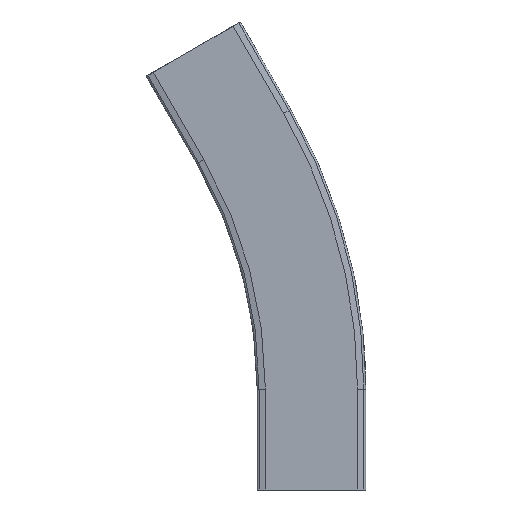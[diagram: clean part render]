
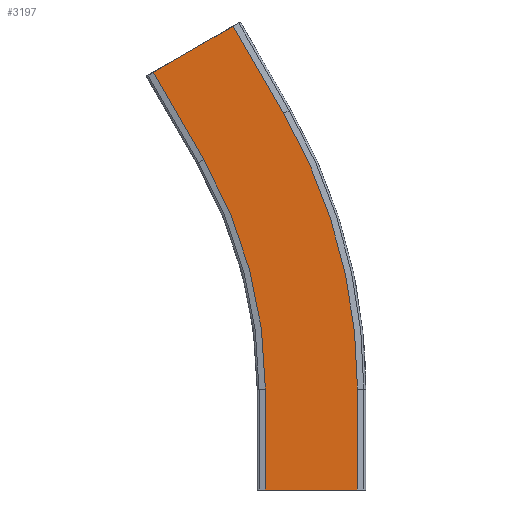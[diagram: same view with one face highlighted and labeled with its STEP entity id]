
A CAD part, front view. The second image highlights one B-rep face of the part: STEP entity #3197.
In plain terms, the highlighted planar face has unit normal (0, -1, 0).
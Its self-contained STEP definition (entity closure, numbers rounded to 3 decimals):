
#325=FACE_OUTER_BOUND('',#493,.T.);
#493=EDGE_LOOP('',(#2915,#2916,#2917,#2918,#2919,#2920,#2921,#2922));
#575=CIRCLE('',#3438,436.5);
#578=CIRCLE('',#3444,363.5);
#888=LINE('',#5509,#1226);
#893=LINE('',#5518,#1231);
#895=LINE('',#5523,#1233);
#910=LINE('',#5563,#1248);
#915=LINE('',#5574,#1253);
#916=LINE('',#5576,#1254);
#1226=VECTOR('',#4179,10.);
#1231=VECTOR('',#4186,10.);
#1233=VECTOR('',#4190,10.);
#1248=VECTOR('',#4231,10.);
#1253=VECTOR('',#4244,10.);
#1254=VECTOR('',#4247,10.);
#1534=VERTEX_POINT('',#5506);
#1535=VERTEX_POINT('',#5508);
#1538=VERTEX_POINT('',#5515);
#1539=VERTEX_POINT('',#5520);
#1549=VERTEX_POINT('',#5546);
#1551=VERTEX_POINT('',#5556);
#1552=VERTEX_POINT('',#5561);
#1554=VERTEX_POINT('',#5572);
#1978=EDGE_CURVE('',#1535,#1534,#888,.T.);
#1983=EDGE_CURVE('',#1535,#1538,#893,.T.);
#1985=EDGE_CURVE('',#1534,#1539,#895,.T.);
#1998=EDGE_CURVE('',#1539,#1549,#575,.T.);
#2004=EDGE_CURVE('',#1538,#1551,#578,.T.);
#2006=EDGE_CURVE('',#1549,#1552,#910,.T.);
#2011=EDGE_CURVE('',#1551,#1554,#915,.T.);
#2012=EDGE_CURVE('',#1552,#1554,#916,.T.);
#2915=ORIENTED_EDGE('',*,*,#2012,.T.);
#2916=ORIENTED_EDGE('',*,*,#2011,.F.);
#2917=ORIENTED_EDGE('',*,*,#2004,.F.);
#2918=ORIENTED_EDGE('',*,*,#1983,.F.);
#2919=ORIENTED_EDGE('',*,*,#1978,.T.);
#2920=ORIENTED_EDGE('',*,*,#1985,.T.);
#2921=ORIENTED_EDGE('',*,*,#1998,.T.);
#2922=ORIENTED_EDGE('',*,*,#2006,.T.);
#3034=PLANE('',#3450);
#3197=ADVANCED_FACE('',(#325),#3034,.T.);
#3438=AXIS2_PLACEMENT_3D('',#5548,#4211,#4212);
#3444=AXIS2_PLACEMENT_3D('',#5559,#4226,#4227);
#3450=AXIS2_PLACEMENT_3D('',#5575,#4245,#4246);
#4179=DIRECTION('',(1.,0.,0.));
#4186=DIRECTION('',(0.,0.,1.));
#4190=DIRECTION('',(0.,0.,1.));
#4211=DIRECTION('center_axis',(0.,-1.,0.));
#4212=DIRECTION('ref_axis',(1.,0.,0.));
#4226=DIRECTION('center_axis',(0.,-1.,0.));
#4227=DIRECTION('ref_axis',(1.,0.,0.));
#4231=DIRECTION('',(-0.5,0.,0.866));
#4244=DIRECTION('',(-0.5,0.,0.866));
#4245=DIRECTION('center_axis',(0.,-1.,0.));
#4246=DIRECTION('ref_axis',(0.5,0.,-0.866));
#4247=DIRECTION('',(-0.866,0.,-0.5));
#5506=CARTESIAN_POINT('',(36.5,-11.,0.));
#5508=CARTESIAN_POINT('',(-36.5,-11.,0.));
#5509=CARTESIAN_POINT('',(-36.5,-11.,0.));
#5515=CARTESIAN_POINT('',(-36.5,-11.,80.));
#5518=CARTESIAN_POINT('',(-36.5,-11.,0.));
#5520=CARTESIAN_POINT('',(36.5,-11.,80.));
#5523=CARTESIAN_POINT('',(36.5,-11.,0.));
#5546=CARTESIAN_POINT('',(-21.98,-11.,298.25));
#5548=CARTESIAN_POINT('Origin',(-400.,-11.,80.));
#5556=CARTESIAN_POINT('',(-85.2,-11.,261.75));
#5559=CARTESIAN_POINT('Origin',(-400.,-11.,80.));
#5561=CARTESIAN_POINT('',(-61.98,-11.,367.532));
#5563=CARTESIAN_POINT('',(122.74,-11.,47.588));
#5572=CARTESIAN_POINT('',(-125.2,-11.,331.032));
#5574=CARTESIAN_POINT('',(59.52,-11.,11.088));
#5575=CARTESIAN_POINT('Origin',(122.74,-11.,47.588));
#5576=CARTESIAN_POINT('',(-76.486,-11.,359.157));
